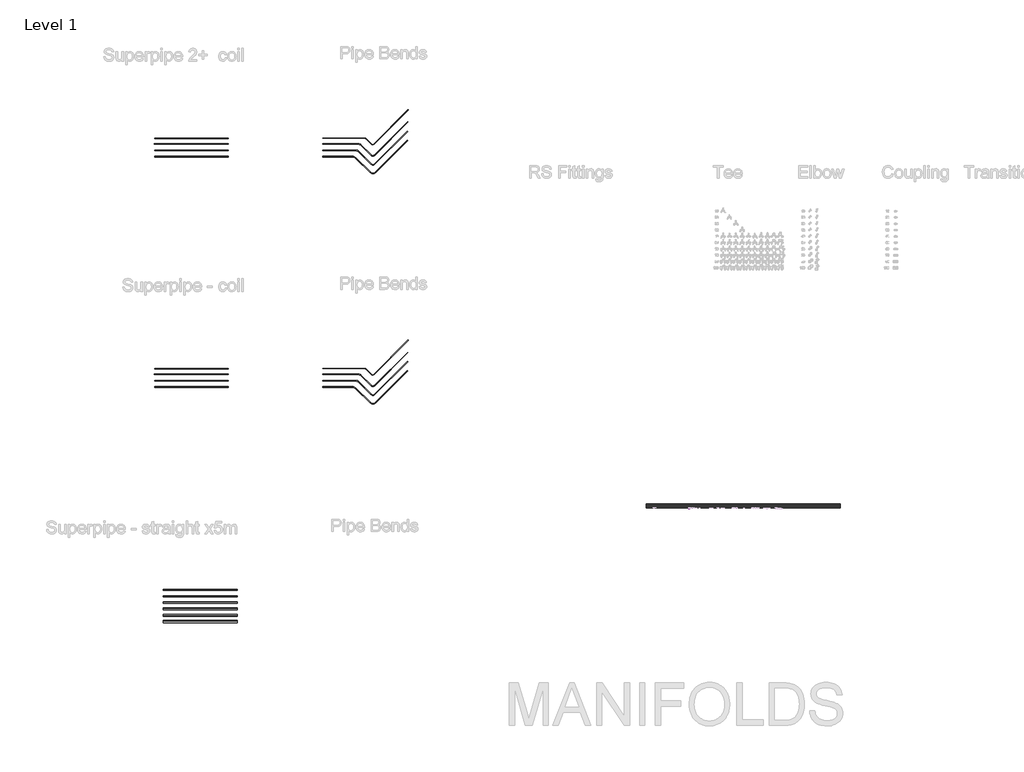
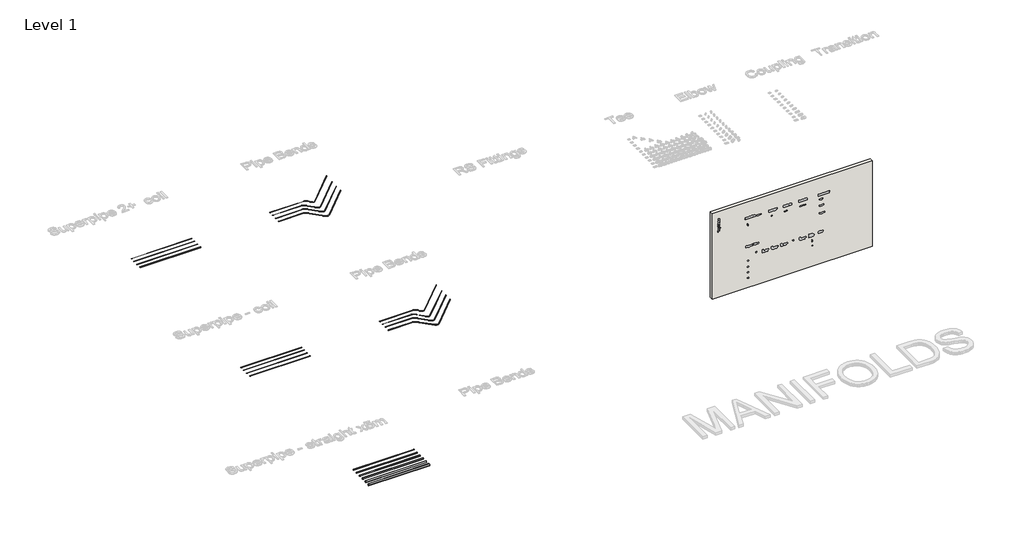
# One storey, part 1 of 58: 38 pipe segments, 17 pipe fittings, 2 valves, 1 wall.
"""IFC4 building model written with IfcOpenShell, lengths in millimetres."""

from ifc_helpers import new_model, si_unit, point, frame, frame_2d, origin, place, context, project, spatial, polyline, circle_curve, trimmed, segment, composite_curve, outline, extrude, transform, mapped, element, save
from components import pipe_bend_eb0728c1, pipe_bend_d9dde6bf, pipe_bend_f4e2ce4f, pipe_bend_7dc21ba6, pipe_bend_fe3f6248, pipe_bend_82ffcff3, pipe_bend_90816637, pipe_bend_7fa1795d, press_tap_elbow_removable_49ef6048, mounting_plate_double_c830053c, mounting_plate_single_762f868f

model = new_model("IFC4")

# Units and contexts
model_context = context("Model", 3, world=origin())
ifc_project = project(units=[si_unit("LENGTHUNIT", "METRE", prefix="MILLI")], contexts=[model_context])

# Site, building, storey
site = spatial("IfcSite", under=ifc_project)
building = spatial("IfcBuilding", under=site)
storey = spatial("IfcBuildingStorey", under=building, Name="Level 1", Elevation=27.3876384)

# Pipe fittings
placement = place(None, origin())
pipe_bend_shape = pipe_bend_eb0728c1(model_context)
element("IfcPipeFitting", 1, ObjectType="Pipe Bend : Superpipe Pipe bend", at=placement, inside=storey, context=model_context, shape_type="MappedRepresentation", body=[
    mapped(pipe_bend_shape, transform((-3369.3253653, 10832.9038637, 27.3876384), x_axis=(0.7071067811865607, -0.7071067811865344, 0.0), y_axis=(0.7071067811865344, 0.7071067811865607, 0.0), z_axis=(0.0, 0.0, 1.0))),
])
pipe_bend_2_shape = pipe_bend_d9dde6bf(model_context)
element("IfcPipeFitting", 2, ObjectType="Pipe Bend : Superpipe 2-MAX Pipe bend", at=placement, inside=storey, context=model_context, shape_type="MappedRepresentation", body=[
    mapped(pipe_bend_2_shape, transform((-4101.9762256, 21538.9696271, 27.3876384), x_axis=(-0.7071067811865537, 0.7071067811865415, 0.0), y_axis=(-0.7071067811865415, -0.7071067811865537, 0.0), z_axis=(0.0, 0.0, 1.0))),
])
pipe_bend_3_shape = pipe_bend_f4e2ce4f(model_context)
element("IfcPipeFitting", 3, ObjectType="Pipe Bend : Superpipe 2-MAX Pipe bend", at=placement, inside=storey, context=model_context, shape_type="MappedRepresentation", body=[
    mapped(pipe_bend_3_shape, transform((-3359.3966856, 20796.390087, 27.3876384), x_axis=(0.7071067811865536, -0.7071067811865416, 0.0), y_axis=(0.7071067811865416, 0.7071067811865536, 0.0), z_axis=(0.0, 0.0, 1.0))),
])
pipe_bend_4_shape = pipe_bend_7dc21ba6(model_context)
element("IfcPipeFitting", 4, ObjectType="Pipe Bend : Superpipe 2-MAX Pipe bend", at=placement, inside=storey, context=model_context, shape_type="MappedRepresentation", body=[
    mapped(pipe_bend_4_shape, transform((-4228.2285194, 21234.1696271, 27.3876384), x_axis=(-0.7071067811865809, 0.7071067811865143, 0.0), y_axis=(-0.7071067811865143, -0.7071067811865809, 0.0), z_axis=(0.0, 0.0, 1.0))),
])
pipe_bend_5_shape = pipe_bend_fe3f6248(model_context)
element("IfcPipeFitting", 5, ObjectType="Pipe Bend : Superpipe 2-MAX Pipe bend", at=placement, inside=storey, context=model_context, shape_type="MappedRepresentation", body=[
    mapped(pipe_bend_5_shape, transform((-3359.5381069, 20365.4792146, 27.3876384), x_axis=(0.7071067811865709, -0.7071067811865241, 0.0), y_axis=(0.7071067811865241, 0.7071067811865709, 0.0), z_axis=(0.0, 0.0, 1.0))),
])
pipe_bend_6_shape = pipe_bend_82ffcff3(model_context)
element("IfcPipeFitting", 6, ObjectType="Pipe Bend : Superpipe 2-MAX Pipe bend", at=placement, inside=storey, context=model_context, shape_type="MappedRepresentation", body=[
    mapped(pipe_bend_6_shape, transform((-3712.611924, 22115.3990822, 27.3876384), x_axis=(-0.7071067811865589, 0.7071067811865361, 0.0), y_axis=(-0.7071067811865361, -0.7071067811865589, 0.0), z_axis=(0.0, 0.0, 1.0))),
])
pipe_bend_7_shape = pipe_bend_90816637(model_context)
element("IfcPipeFitting", 7, ObjectType="Pipe Bend : Superpipe 2-MAX Pipe bend", at=placement, inside=storey, context=model_context, shape_type="MappedRepresentation", body=[
    mapped(pipe_bend_7_shape, transform((-3977.7121569, 21838.9696271, 27.3876384), x_axis=(-0.7071067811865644, 0.7071067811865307, 0.0), y_axis=(-0.7071067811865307, -0.7071067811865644, 0.0), z_axis=(0.0, 0.0, 1.0))),
])
pipe_bend_8_shape = pipe_bend_7fa1795d(model_context)
element("IfcPipeFitting", 8, ObjectType="Pipe Bend : Superpipe 2-MAX Pipe bend", at=placement, inside=storey, context=model_context, shape_type="MappedRepresentation", body=[
    mapped(pipe_bend_8_shape, transform((-3359.3966856, 21220.6541558, 27.3876384), x_axis=(0.7071067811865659, -0.7071067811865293, 0.0), y_axis=(0.7071067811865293, 0.7071067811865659, 0.0), z_axis=(0.0, 0.0, 1.0))),
])
element("IfcPipeFitting", 9, ObjectType="Pipe Bend : Superpipe Pipe bend", at=placement, inside=storey, context=model_context, shape_type="MappedRepresentation", body=[
    mapped(pipe_bend_2_shape, transform((-4101.9762256, 10599.7609672, 27.3876384), x_axis=(-0.7071067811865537, 0.7071067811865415, 0.0), y_axis=(-0.7071067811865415, -0.7071067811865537, 0.0), z_axis=(0.0, 0.0, 1.0))),
])
element("IfcPipeFitting", 10, ObjectType="Pipe Bend : Superpipe Pipe bend", at=placement, inside=storey, context=model_context, shape_type="MappedRepresentation", body=[
    mapped(pipe_bend_3_shape, transform((-3359.3966856, 9857.1814272, 27.3876384), x_axis=(0.7071067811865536, -0.7071067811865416, 0.0), y_axis=(0.7071067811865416, 0.7071067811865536, 0.0), z_axis=(0.0, 0.0, 1.0))),
])
element("IfcPipeFitting", 11, ObjectType="Pipe Bend : Superpipe Pipe bend", at=placement, inside=storey, context=model_context, shape_type="MappedRepresentation", body=[
    mapped(pipe_bend_4_shape, transform((-4228.2285194, 10294.9609672, 27.3876384), x_axis=(-0.7071067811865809, 0.7071067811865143, 0.0), y_axis=(-0.7071067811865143, -0.7071067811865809, 0.0), z_axis=(0.0, 0.0, 1.0))),
])
element("IfcPipeFitting", 12, ObjectType="Pipe Bend : Superpipe Pipe bend", at=placement, inside=storey, context=model_context, shape_type="MappedRepresentation", body=[
    mapped(pipe_bend_5_shape, transform((-3359.5381069, 9426.2705547, 27.3876384), x_axis=(0.7071067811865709, -0.7071067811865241, 0.0), y_axis=(0.7071067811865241, 0.7071067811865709, 0.0), z_axis=(0.0, 0.0, 1.0))),
])
element("IfcPipeFitting", 13, ObjectType="Pipe Bend : Superpipe Pipe bend", at=placement, inside=storey, context=model_context, shape_type="MappedRepresentation", body=[
    mapped(pipe_bend_6_shape, transform((-3712.611924, 11176.1904223, 27.3876384), x_axis=(-0.7071067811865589, 0.7071067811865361, 0.0), y_axis=(-0.7071067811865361, -0.7071067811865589, 0.0), z_axis=(0.0, 0.0, 1.0))),
])
element("IfcPipeFitting", 14, ObjectType="Pipe Bend : Superpipe Pipe bend", at=placement, inside=storey, context=model_context, shape_type="MappedRepresentation", body=[
    mapped(pipe_bend_7_shape, transform((-3977.7121569, 10899.7609672, 27.3876384), x_axis=(-0.7071067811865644, 0.7071067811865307, 0.0), y_axis=(-0.7071067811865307, -0.7071067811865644, 0.0), z_axis=(0.0, 0.0, 1.0))),
])
element("IfcPipeFitting", 15, ObjectType="Pipe Bend : Superpipe Pipe bend", at=placement, inside=storey, context=model_context, shape_type="MappedRepresentation", body=[
    mapped(pipe_bend_8_shape, transform((-3359.3966856, 10281.4454959, 27.3876384), x_axis=(0.7071067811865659, -0.7071067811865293, 0.0), y_axis=(0.7071067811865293, 0.7071067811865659, 0.0), z_axis=(0.0, 0.0, 1.0))),
])
element("IfcPipeFitting", 16, ObjectType="Pipe Bend : Superpipe 2-MAX Pipe bend", at=placement, inside=storey, context=model_context, shape_type="MappedRepresentation", body=[
    mapped(pipe_bend_shape, transform((-3369.3253653, 21772.1125236, 27.3876384), x_axis=(0.7071067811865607, -0.7071067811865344, 0.0), y_axis=(0.7071067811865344, 0.7071067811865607, 0.0), z_axis=(0.0, 0.0, 1.0))),
])
press_tap_elbow_removable_shape = press_tap_elbow_removable_49ef6048(model_context)
element("IfcPipeFitting", 17, ObjectType="Press Tap Elbow (removable) : Superpipe Press Tap Elbow (removable) - 16x½”", at=placement, inside=storey, context=model_context, shape_type="MappedRepresentation", body=[
    mapped(press_tap_elbow_removable_shape, transform((11641.6673445, 4544.8703674, 3854.1517019), x_axis=(1.0, 0.0, 0.0), y_axis=(0.0, 0.0, 1.0), z_axis=(0.0, -1.0, 0.0))),
])

# Pipe segments
element("IfcPipeSegment", 18, ObjectType="Superpipe - straight x5m", at=placement, inside=storey, context=model_context, shape_type="SweptSolid", body=[
    extrude(outline(composite_curve([segment(trimmed(circle_curve(frame_2d((661.181439, 27.3876384)), 20.0), [point((641.181439, 27.3876384))], [point((661.181439, 47.3876384))], False, "CARTESIAN"), True, "CONTINUOUS"), segment(trimmed(circle_curve(frame_2d((661.181439, 27.3876384)), 20.0), [point((661.181439, 47.3876384))], [point((681.181439, 27.3876384))], False, "CARTESIAN"), True, "CONTINUOUS"), segment(trimmed(circle_curve(frame_2d((661.181439, 27.3876384)), 20.0), [point((681.181439, 27.3876384))], [point((661.181439, 7.3876384))], False, "CARTESIAN"), True, "CONTINUOUS"), segment(trimmed(circle_curve(frame_2d((661.181439, 27.3876384)), 20.0), [point((661.181439, 7.3876384))], [point((641.181439, 27.3876384))], False, "CARTESIAN"), True, "CONTINUOUS")], self_intersect=False)), frame((-13304.4823631, 0.0, 0.0), z_axis=(1.0, 0.0, 0.0), x_axis=(0.0, 1.0, 0.0)), (0.0, 0.0, 1.0), 3500.0),
])
element("IfcPipeSegment", 19, ObjectType="Superpipe - straight x5m", at=placement, inside=storey, context=model_context, shape_type="SweptSolid", body=[
    extrude(outline(composite_curve([segment(trimmed(circle_curve(frame_2d((361.181439, 27.3876384)), 25.0), [point((336.181439, 27.3876384))], [point((361.181439, 52.3876384))], False, "CARTESIAN"), True, "CONTINUOUS"), segment(trimmed(circle_curve(frame_2d((361.181439, 27.3876384)), 25.0), [point((361.181439, 52.3876384))], [point((386.181439, 27.3876384))], False, "CARTESIAN"), True, "CONTINUOUS"), segment(trimmed(circle_curve(frame_2d((361.181439, 27.3876384)), 25.0), [point((386.181439, 27.3876384))], [point((361.181439, 2.3876384))], False, "CARTESIAN"), True, "CONTINUOUS"), segment(trimmed(circle_curve(frame_2d((361.181439, 27.3876384)), 25.0), [point((361.181439, 2.3876384))], [point((336.181439, 27.3876384))], False, "CARTESIAN"), True, "CONTINUOUS")], self_intersect=False)), frame((-13304.4823631, 0.0, 0.0), z_axis=(1.0, 0.0, 0.0), x_axis=(0.0, 1.0, 0.0)), (0.0, 0.0, 1.0), 3500.0),
])
element("IfcPipeSegment", 20, ObjectType="Superpipe - straight x5m", at=placement, inside=storey, context=model_context, shape_type="SweptSolid", body=[
    extrude(outline(composite_curve([segment(trimmed(circle_curve(frame_2d((-238.818561, 27.3876384)), 37.5), [point((-276.318561, 27.3876384))], [point((-238.818561, 64.8876384))], False, "CARTESIAN"), True, "CONTINUOUS"), segment(trimmed(circle_curve(frame_2d((-238.818561, 27.3876384)), 37.5), [point((-238.818561, 64.8876384))], [point((-201.318561, 27.3876384))], False, "CARTESIAN"), True, "CONTINUOUS"), segment(trimmed(circle_curve(frame_2d((-238.818561, 27.3876384)), 37.5), [point((-201.318561, 27.3876384))], [point((-238.818561, -10.1123616))], False, "CARTESIAN"), True, "CONTINUOUS"), segment(trimmed(circle_curve(frame_2d((-238.818561, 27.3876384)), 37.5), [point((-238.818561, -10.1123616))], [point((-276.318561, 27.3876384))], False, "CARTESIAN"), True, "CONTINUOUS")], self_intersect=False)), frame((-13304.4823631, 0.0, 0.0), z_axis=(1.0, 0.0, 0.0), x_axis=(0.0, 1.0, 0.0)), (0.0, 0.0, 1.0), 3500.0),
])
element("IfcPipeSegment", 21, ObjectType="Superpipe - straight x5m", at=placement, inside=storey, context=model_context, shape_type="SweptSolid", body=[
    extrude(outline(composite_curve([segment(trimmed(circle_curve(frame_2d((-538.818561, 27.3876384)), 45.0), [point((-583.818561, 27.3876384))], [point((-538.818561, 72.3876384))], False, "CARTESIAN"), True, "CONTINUOUS"), segment(trimmed(circle_curve(frame_2d((-538.818561, 27.3876384)), 45.0), [point((-538.818561, 72.3876384))], [point((-493.818561, 27.3876384))], False, "CARTESIAN"), True, "CONTINUOUS"), segment(trimmed(circle_curve(frame_2d((-538.818561, 27.3876384)), 45.0), [point((-493.818561, 27.3876384))], [point((-538.818561, -17.6123616))], False, "CARTESIAN"), True, "CONTINUOUS"), segment(trimmed(circle_curve(frame_2d((-538.818561, 27.3876384)), 45.0), [point((-538.818561, -17.6123616))], [point((-583.818561, 27.3876384))], False, "CARTESIAN"), True, "CONTINUOUS")], self_intersect=False)), frame((-13304.4823631, 0.0, 0.0), z_axis=(1.0, 0.0, 0.0), x_axis=(0.0, 1.0, 0.0)), (0.0, 0.0, 1.0), 3500.0),
])
element("IfcPipeSegment", 22, ObjectType="Superpipe - straight x5m", at=placement, inside=storey, context=model_context, shape_type="SweptSolid", body=[
    extrude(outline(composite_curve([segment(trimmed(circle_curve(frame_2d((-838.818561, 27.3876384)), 55.0), [point((-893.818561, 27.3876384))], [point((-838.818561, 82.3876384))], False, "CARTESIAN"), True, "CONTINUOUS"), segment(trimmed(circle_curve(frame_2d((-838.818561, 27.3876384)), 55.0), [point((-838.818561, 82.3876384))], [point((-783.818561, 27.3876384))], False, "CARTESIAN"), True, "CONTINUOUS"), segment(trimmed(circle_curve(frame_2d((-838.818561, 27.3876384)), 55.0), [point((-783.818561, 27.3876384))], [point((-838.818561, -27.6123616))], False, "CARTESIAN"), True, "CONTINUOUS"), segment(trimmed(circle_curve(frame_2d((-838.818561, 27.3876384)), 55.0), [point((-838.818561, -27.6123616))], [point((-893.818561, 27.3876384))], False, "CARTESIAN"), True, "CONTINUOUS")], self_intersect=False)), frame((-13304.4823631, 0.0, 0.0), z_axis=(1.0, 0.0, 0.0), x_axis=(0.0, 1.0, 0.0)), (0.0, 0.0, 1.0), 3500.0),
])
element("IfcPipeSegment", 23, ObjectType="Superpipe - straight x5m", at=placement, inside=storey, context=model_context, shape_type="SweptSolid", body=[
    extrude(outline(composite_curve([segment(trimmed(circle_curve(frame_2d((61.181439, 27.3876384)), 31.5), [point((92.681439, 27.3876384))], [point((61.181439, -4.1123616))], False, "CARTESIAN"), True, "CONTINUOUS"), segment(trimmed(circle_curve(frame_2d((61.181439, 27.3876384)), 31.5), [point((61.181439, -4.1123616))], [point((29.681439, 27.3876384))], False, "CARTESIAN"), True, "CONTINUOUS"), segment(trimmed(circle_curve(frame_2d((61.181439, 27.3876384)), 31.5), [point((29.681439, 27.3876384))], [point((61.181439, 58.8876384))], False, "CARTESIAN"), True, "CONTINUOUS"), segment(trimmed(circle_curve(frame_2d((61.181439, 27.3876384)), 31.5), [point((61.181439, 58.8876384))], [point((92.681439, 27.3876384))], False, "CARTESIAN"), True, "CONTINUOUS")], self_intersect=False)), frame((-13304.4823631, 0.0, 0.0), z_axis=(1.0, 0.0, 0.0), x_axis=(0.0, 1.0, 0.0)), (0.0, 0.0, 1.0), 3500.0),
])
element("IfcPipeSegment", 24, ObjectType="Superpipe 2+ coil", at=placement, inside=storey, context=model_context, shape_type="SweptSolid", body=[
    extrude(outline(composite_curve([segment(trimmed(circle_curve(frame_2d((22094.3722223, 27.3876384)), 8.0), [point((22086.3722223, 27.3876384))], [point((22094.3722223, 35.3876384))], False, "CARTESIAN"), True, "CONTINUOUS"), segment(trimmed(circle_curve(frame_2d((22094.3722223, 27.3876384)), 8.0), [point((22094.3722223, 35.3876384))], [point((22102.3722223, 27.3876384))], False, "CARTESIAN"), True, "CONTINUOUS"), segment(trimmed(circle_curve(frame_2d((22094.3722223, 27.3876384)), 8.0), [point((22102.3722223, 27.3876384))], [point((22094.3722223, 19.3876384))], False, "CARTESIAN"), True, "CONTINUOUS"), segment(trimmed(circle_curve(frame_2d((22094.3722223, 27.3876384)), 8.0), [point((22094.3722223, 19.3876384))], [point((22086.3722223, 27.3876384))], False, "CARTESIAN"), True, "CONTINUOUS")], self_intersect=False)), frame((-13721.8421438, 0.0, 0.0), z_axis=(1.0, 0.0, 0.0), x_axis=(0.0, 1.0, 0.0)), (0.0, 0.0, 1.0), 3490.872583),
])
element("IfcPipeSegment", 25, ObjectType="Superpipe 2+ coil", at=placement, inside=storey, context=model_context, shape_type="SweptSolid", body=[
    extrude(outline(composite_curve([segment(trimmed(circle_curve(frame_2d((21831.7152238, 27.3876384)), 10.0), [point((21821.7152238, 27.3876384))], [point((21831.7152238, 37.3876384))], False, "CARTESIAN"), True, "CONTINUOUS"), segment(trimmed(circle_curve(frame_2d((21831.7152238, 27.3876384)), 10.0), [point((21831.7152238, 37.3876384))], [point((21841.7152238, 27.3876384))], False, "CARTESIAN"), True, "CONTINUOUS"), segment(trimmed(circle_curve(frame_2d((21831.7152238, 27.3876384)), 10.0), [point((21841.7152238, 27.3876384))], [point((21831.7152238, 17.3876384))], False, "CARTESIAN"), True, "CONTINUOUS"), segment(trimmed(circle_curve(frame_2d((21831.7152238, 27.3876384)), 10.0), [point((21831.7152238, 17.3876384))], [point((21821.7152238, 27.3876384))], False, "CARTESIAN"), True, "CONTINUOUS")], self_intersect=False)), frame((-13730.9695608, 0.0, 0.0), z_axis=(1.0, 0.0, 0.0), x_axis=(0.0, 1.0, 0.0)), (0.0, 0.0, 1.0), 3500.0),
])
element("IfcPipeSegment", 26, ObjectType="Superpipe 2+ coil", at=placement, inside=storey, context=model_context, shape_type="SweptSolid", body=[
    extrude(outline(composite_curve([segment(trimmed(circle_curve(frame_2d((21531.7152238, 27.3876384)), 12.5), [point((21519.2152238, 27.3876384))], [point((21531.7152238, 39.8876384))], False, "CARTESIAN"), True, "CONTINUOUS"), segment(trimmed(circle_curve(frame_2d((21531.7152238, 27.3876384)), 12.5), [point((21531.7152238, 39.8876384))], [point((21544.2152238, 27.3876384))], False, "CARTESIAN"), True, "CONTINUOUS"), segment(trimmed(circle_curve(frame_2d((21531.7152238, 27.3876384)), 12.5), [point((21544.2152238, 27.3876384))], [point((21531.7152238, 14.8876384))], False, "CARTESIAN"), True, "CONTINUOUS"), segment(trimmed(circle_curve(frame_2d((21531.7152238, 27.3876384)), 12.5), [point((21531.7152238, 14.8876384))], [point((21519.2152238, 27.3876384))], False, "CARTESIAN"), True, "CONTINUOUS")], self_intersect=False)), frame((-13721.8421438, 0.0, 0.0), z_axis=(1.0, 0.0, 0.0), x_axis=(0.0, 1.0, 0.0)), (0.0, 0.0, 1.0), 3490.872583),
])
element("IfcPipeSegment", 27, ObjectType="Superpipe 2+ coil", at=placement, inside=storey, context=model_context, shape_type="SweptSolid", body=[
    extrude(outline(composite_curve([segment(trimmed(circle_curve(frame_2d((21231.7152238, 27.3876384)), 16.0), [point((21215.7152238, 27.3876384))], [point((21231.7152238, 43.3876384))], False, "CARTESIAN"), True, "CONTINUOUS"), segment(trimmed(circle_curve(frame_2d((21231.7152238, 27.3876384)), 16.0), [point((21231.7152238, 43.3876384))], [point((21247.7152238, 27.3876384))], False, "CARTESIAN"), True, "CONTINUOUS"), segment(trimmed(circle_curve(frame_2d((21231.7152238, 27.3876384)), 16.0), [point((21247.7152238, 27.3876384))], [point((21231.7152238, 11.3876384))], False, "CARTESIAN"), True, "CONTINUOUS"), segment(trimmed(circle_curve(frame_2d((21231.7152238, 27.3876384)), 16.0), [point((21231.7152238, 11.3876384))], [point((21215.7152238, 27.3876384))], False, "CARTESIAN"), True, "CONTINUOUS")], self_intersect=False)), frame((-13717.2857947, 0.0, 0.0), z_axis=(1.0, 0.0, 0.0), x_axis=(0.0, 1.0, 0.0)), (0.0, 0.0, 1.0), 3486.3162338),
])
element("IfcPipeSegment", 28, ObjectType="Superpipe 2+ coil", at=placement, inside=storey, context=model_context, shape_type="SweptSolid", body=[
    extrude(outline(composite_curve([segment(trimmed(circle_curve(frame_2d((21538.9696271, 27.3876384)), 12.5), [point((21526.4696271, 27.3876384))], [point((21538.9696271, 39.8876384))], False, "CARTESIAN"), True, "CONTINUOUS"), segment(trimmed(circle_curve(frame_2d((21538.9696271, 27.3876384)), 12.5), [point((21538.9696271, 39.8876384))], [point((21551.4696271, 27.3876384))], False, "CARTESIAN"), True, "CONTINUOUS"), segment(trimmed(circle_curve(frame_2d((21538.9696271, 27.3876384)), 12.5), [point((21551.4696271, 27.3876384))], [point((21538.9696271, 14.8876384))], False, "CARTESIAN"), True, "CONTINUOUS"), segment(trimmed(circle_curve(frame_2d((21538.9696271, 27.3876384)), 12.5), [point((21538.9696271, 14.8876384))], [point((21526.4696271, 27.3876384))], False, "CARTESIAN"), True, "CONTINUOUS")], self_intersect=False)), frame((-5730.9695608, 0.0, 0.0), z_axis=(1.0, 0.0, 0.0), x_axis=(0.0, 1.0, 0.0)), (0.0, 0.0, 1.0), 1575.2166399),
])
element("IfcPipeSegment", 29, ObjectType="Superpipe 2+ coil", at=placement, inside=storey, context=model_context, shape_type="SweptSolid", body=[
    extrude(outline(composite_curve([segment(trimmed(circle_curve(frame_2d((0.0, -12.5)), 12.5), [point((-12.5, -12.5))], [point((0.0, 0.0))], False, "CARTESIAN"), True, "CONTINUOUS"), segment(trimmed(circle_curve(frame_2d((0.0, -12.5)), 12.5), [point((0.0, 0.0))], [point((12.5, -12.5))], False, "CARTESIAN"), True, "CONTINUOUS"), segment(trimmed(circle_curve(frame_2d((0.0, -12.5)), 12.5), [point((12.5, -12.5))], [point((0.0, -25.0))], False, "CARTESIAN"), True, "CONTINUOUS"), segment(trimmed(circle_curve(frame_2d((0.0, -12.5)), 12.5), [point((0.0, -25.0))], [point((-12.5, -12.5))], False, "CARTESIAN"), True, "CONTINUOUS")], self_intersect=False)), frame((-3449.1992468, 20886.1926483, 14.8876384), z_axis=(-0.7071067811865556, 0.7071067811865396, 0.0), x_axis=(0.7071067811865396, 0.7071067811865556, 0.0)), (0.0, 0.0, 1.0), 869.3893614),
])
element("IfcPipeSegment", 30, ObjectType="Superpipe 2+ coil", at=placement, inside=storey, context=model_context, shape_type="SweptSolid", body=[
    extrude(outline(composite_curve([segment(trimmed(circle_curve(frame_2d((0.0, 12.5)), 12.5), [point((12.5, 12.5))], [point((0.0, 0.0))], False, "CARTESIAN"), True, "CONTINUOUS"), segment(trimmed(circle_curve(frame_2d((0.0, 12.5)), 12.5), [point((0.0, 0.0))], [point((-12.4999999, 12.5))], False, "CARTESIAN"), True, "CONTINUOUS"), segment(trimmed(circle_curve(frame_2d((0.0, 12.5)), 12.5), [point((-12.4999999, 12.5))], [point((0.0, 25.0))], False, "CARTESIAN"), True, "CONTINUOUS"), segment(trimmed(circle_curve(frame_2d((0.0, 12.5)), 12.5), [point((0.0, 25.0))], [point((12.5, 12.5))], False, "CARTESIAN"), True, "CONTINUOUS")], self_intersect=False)), frame((-3269.5941244, 20886.1926483, 39.8876384), z_axis=(0.7071067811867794, 0.7071067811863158, 0.0), x_axis=(0.7071067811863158, -0.7071067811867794, 0.0)), (0.0, 0.0, 1.0), 2195.2640687),
])
element("IfcPipeSegment", 31, ObjectType="Superpipe 2+ coil", at=placement, inside=storey, context=model_context, shape_type="SweptSolid", body=[
    extrude(outline(composite_curve([segment(trimmed(circle_curve(frame_2d((21234.1696271, 27.3876384)), 16.0), [point((21218.1696271, 27.3876384))], [point((21234.1696271, 43.3876384))], False, "CARTESIAN"), True, "CONTINUOUS"), segment(trimmed(circle_curve(frame_2d((21234.1696271, 27.3876384)), 16.0), [point((21234.1696271, 43.3876384))], [point((21250.1696271, 27.3876384))], False, "CARTESIAN"), True, "CONTINUOUS"), segment(trimmed(circle_curve(frame_2d((21234.1696271, 27.3876384)), 16.0), [point((21250.1696271, 27.3876384))], [point((21234.1696271, 11.3876384))], False, "CARTESIAN"), True, "CONTINUOUS"), segment(trimmed(circle_curve(frame_2d((21234.1696271, 27.3876384)), 16.0), [point((21234.1696271, 11.3876384))], [point((21218.1696271, 27.3876384))], False, "CARTESIAN"), True, "CONTINUOUS")], self_intersect=False)), frame((-5730.9695608, 0.0, 0.0), z_axis=(1.0, 0.0, 0.0), x_axis=(0.0, 1.0, 0.0)), (0.0, 0.0, 1.0), 1434.4668714),
])
element("IfcPipeSegment", 32, ObjectType="Superpipe 2+ coil", at=placement, inside=storey, context=model_context, shape_type="SweptSolid", body=[
    extrude(outline(composite_curve([segment(trimmed(circle_curve(frame_2d((0.0, -16.0)), 16.0), [point((-16.0, -16.0))], [point((0.0, 0.0))], False, "CARTESIAN"), True, "CONTINUOUS"), segment(trimmed(circle_curve(frame_2d((0.0, -16.0)), 16.0), [point((0.0, 0.0))], [point((16.0, -16.0))], False, "CARTESIAN"), True, "CONTINUOUS"), segment(trimmed(circle_curve(frame_2d((0.0, -16.0)), 16.0), [point((16.0, -16.0))], [point((0.0, -32.0))], False, "CARTESIAN"), True, "CONTINUOUS"), segment(trimmed(circle_curve(frame_2d((0.0, -16.0)), 16.0), [point((0.0, -32.0))], [point((-16.0, -16.0))], False, "CARTESIAN"), True, "CONTINUOUS")], self_intersect=False)), frame((-3474.0894055, 20480.0305131, 11.3876384), z_axis=(-0.7071067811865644, 0.7071067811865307, 0.0), x_axis=(0.7071067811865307, 0.7071067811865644, 0.0)), (0.0, 0.0, 1.0), 998.2395929),
])
element("IfcPipeSegment", 33, ObjectType="Superpipe 2+ coil", at=placement, inside=storey, context=model_context, shape_type="SweptSolid", body=[
    extrude(outline(composite_curve([segment(trimmed(circle_curve(frame_2d((0.0, 16.0)), 16.0), [point((16.0, 16.0))], [point((0.0, 0.0))], False, "CARTESIAN"), True, "CONTINUOUS"), segment(trimmed(circle_curve(frame_2d((0.0, 16.0)), 16.0), [point((0.0, 0.0))], [point((-16.0, 16.0))], False, "CARTESIAN"), True, "CONTINUOUS"), segment(trimmed(circle_curve(frame_2d((0.0, 16.0)), 16.0), [point((-16.0, 16.0))], [point((0.0, 32.0))], False, "CARTESIAN"), True, "CONTINUOUS"), segment(trimmed(circle_curve(frame_2d((0.0, 16.0)), 16.0), [point((0.0, 32.0))], [point((16.0, 16.0))], False, "CARTESIAN"), True, "CONTINUOUS")], self_intersect=False)), frame((-3244.9868084, 20480.0305131, 43.3876384), z_axis=(0.7071067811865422, 0.7071067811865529, 0.0), x_axis=(0.7071067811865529, -0.7071067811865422, 0.0)), (0.0, 0.0, 1.0), 2149.2640687),
])
element("IfcPipeSegment", 34, ObjectType="Superpipe 2+ coil", at=placement, inside=storey, context=model_context, shape_type="SweptSolid", body=[
    extrude(outline(composite_curve([segment(trimmed(circle_curve(frame_2d((22115.3990822, 27.3876384)), 8.0), [point((22107.3990822, 27.3876384))], [point((22115.3990822, 35.3876384))], False, "CARTESIAN"), True, "CONTINUOUS"), segment(trimmed(circle_curve(frame_2d((22115.3990822, 27.3876384)), 8.0), [point((22115.3990822, 35.3876384))], [point((22123.3990822, 27.3876384))], False, "CARTESIAN"), True, "CONTINUOUS"), segment(trimmed(circle_curve(frame_2d((22115.3990822, 27.3876384)), 8.0), [point((22123.3990822, 27.3876384))], [point((22115.3990822, 19.3876384))], False, "CARTESIAN"), True, "CONTINUOUS"), segment(trimmed(circle_curve(frame_2d((22115.3990822, 27.3876384)), 8.0), [point((22115.3990822, 19.3876384))], [point((22107.3990822, 27.3876384))], False, "CARTESIAN"), True, "CONTINUOUS")], self_intersect=False)), frame((-5727.3990159, 0.0, 0.0), z_axis=(1.0, 0.0, 0.0), x_axis=(0.0, 1.0, 0.0)), (0.0, 0.0, 1.0), 1979.650007),
])
element("IfcPipeSegment", 35, ObjectType="Superpipe 2+ coil", at=placement, inside=storey, context=model_context, shape_type="SweptSolid", body=[
    extrude(outline(composite_curve([segment(trimmed(circle_curve(frame_2d((0.0, -8.0)), 8.0), [point((-8.0, -8.0))], [point((0.0, 0.0))], False, "CARTESIAN"), True, "CONTINUOUS"), segment(trimmed(circle_curve(frame_2d((0.0, -8.0)), 8.0), [point((0.0, 0.0))], [point((8.0, -8.0))], False, "CARTESIAN"), True, "CONTINUOUS"), segment(trimmed(circle_curve(frame_2d((0.0, -8.0)), 8.0), [point((8.0, -8.0))], [point((0.0, -16.0))], False, "CARTESIAN"), True, "CONTINUOUS"), segment(trimmed(circle_curve(frame_2d((0.0, -8.0)), 8.0), [point((0.0, -16.0))], [point((-8.0, -8.0))], False, "CARTESIAN"), True, "CONTINUOUS")], self_intersect=False)), frame((-3427.3081214, 21830.0952796, 19.3876384), z_axis=(-0.7071067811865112, 0.707106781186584, 0.0), x_axis=(0.707106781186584, 0.7071067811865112, 0.0)), (0.0, 0.0, 1.0), 368.343422),
])
element("IfcPipeSegment", 36, ObjectType="Superpipe 2+ coil", at=placement, inside=storey, context=model_context, shape_type="SweptSolid", body=[
    extrude(outline(composite_curve([segment(trimmed(circle_curve(frame_2d((0.0, 8.0)), 8.0), [point((8.0, 8.0))], [point((0.0, 0.0))], False, "CARTESIAN"), True, "CONTINUOUS"), segment(trimmed(circle_curve(frame_2d((0.0, 8.0)), 8.0), [point((0.0, 0.0))], [point((-8.0, 8.0))], False, "CARTESIAN"), True, "CONTINUOUS"), segment(trimmed(circle_curve(frame_2d((0.0, 8.0)), 8.0), [point((-8.0, 8.0))], [point((0.0, 16.0))], False, "CARTESIAN"), True, "CONTINUOUS"), segment(trimmed(circle_curve(frame_2d((0.0, 8.0)), 8.0), [point((0.0, 16.0))], [point((8.0, 8.0))], False, "CARTESIAN"), True, "CONTINUOUS")], self_intersect=False)), frame((-3311.3426093, 21830.0952796, 35.3876384), z_axis=(0.7071067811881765, 0.7071067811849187, 0.0), x_axis=(0.7071067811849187, -0.7071067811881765, 0.0)), (0.0, 0.0, 1.0), 2295.3548553),
])
element("IfcPipeSegment", 37, ObjectType="Superpipe 2+ coil", at=placement, inside=storey, context=model_context, shape_type="SweptSolid", body=[
    extrude(outline(composite_curve([segment(trimmed(circle_curve(frame_2d((21838.9696271, 27.3876384)), 10.0), [point((21848.9696271, 27.3876384))], [point((21838.9696271, 17.3876384))], False, "CARTESIAN"), True, "CONTINUOUS"), segment(trimmed(circle_curve(frame_2d((21838.9696271, 27.3876384)), 10.0), [point((21838.9696271, 17.3876384))], [point((21828.9696271, 27.3876384))], False, "CARTESIAN"), True, "CONTINUOUS"), segment(trimmed(circle_curve(frame_2d((21838.9696271, 27.3876384)), 10.0), [point((21828.9696271, 27.3876384))], [point((21838.9696271, 37.3876384))], False, "CARTESIAN"), True, "CONTINUOUS"), segment(trimmed(circle_curve(frame_2d((21838.9696271, 27.3876384)), 10.0), [point((21838.9696271, 37.3876384))], [point((21848.9696271, 27.3876384))], False, "CARTESIAN"), True, "CONTINUOUS")], self_intersect=False)), frame((-5730.9695608, 0.0, 0.0), z_axis=(1.0, 0.0, 0.0), x_axis=(0.0, 1.0, 0.0)), (0.0, 0.0, 1.0), 1709.8360477),
])
element("IfcPipeSegment", 38, ObjectType="Superpipe 2+ coil", at=placement, inside=storey, context=model_context, shape_type="SweptSolid", body=[
    extrude(outline(composite_curve([segment(trimmed(circle_curve(frame_2d((0.0, 10.0)), 10.0), [point((10.0, 10.0))], [point((0.0, 0.0))], False, "CARTESIAN"), True, "CONTINUOUS"), segment(trimmed(circle_curve(frame_2d((0.0, 10.0)), 10.0), [point((0.0, 0.0))], [point((-10.0, 10.0))], False, "CARTESIAN"), True, "CONTINUOUS"), segment(trimmed(circle_curve(frame_2d((0.0, 10.0)), 10.0), [point((-10.0, 10.0))], [point((0.0, 20.0))], False, "CARTESIAN"), True, "CONTINUOUS"), segment(trimmed(circle_curve(frame_2d((0.0, 10.0)), 10.0), [point((0.0, 20.0))], [point((10.0, 10.0))], False, "CARTESIAN"), True, "CONTINUOUS")], self_intersect=False)), frame((-3431.5215773, 21292.7790474, 37.3876384), z_axis=(-0.7071067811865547, 0.7071067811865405, 0.0), x_axis=(0.7071067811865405, 0.7071067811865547, 0.0)), (0.0, 0.0, 1.0), 729.0087692),
])
element("IfcPipeSegment", 39, ObjectType="Superpipe 2+ coil", at=placement, inside=storey, context=model_context, shape_type="SweptSolid", body=[
    extrude(outline(composite_curve([segment(trimmed(circle_curve(frame_2d((0.0, -10.0)), 10.0), [point((-10.0, -10.0))], [point((0.0, 0.0))], False, "CARTESIAN"), True, "CONTINUOUS"), segment(trimmed(circle_curve(frame_2d((0.0, -10.0)), 10.0), [point((0.0, 0.0))], [point((10.0, -10.0))], False, "CARTESIAN"), True, "CONTINUOUS"), segment(trimmed(circle_curve(frame_2d((0.0, -10.0)), 10.0), [point((10.0, -10.0))], [point((0.0, -20.0))], False, "CARTESIAN"), True, "CONTINUOUS"), segment(trimmed(circle_curve(frame_2d((0.0, -10.0)), 10.0), [point((0.0, -20.0))], [point((-10.0, -10.0))], False, "CARTESIAN"), True, "CONTINUOUS")], self_intersect=False)), frame((-3287.2717939, 21292.7790474, 17.3876384), z_axis=(0.7071067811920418, 0.7071067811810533, 0.0), x_axis=(0.7071067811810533, -0.7071067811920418, 0.0)), (0.0, 0.0, 1.0), 2240.2640687),
])
element("IfcPipeSegment", 40, ObjectType="Superpipe - coil", at=placement, inside=storey, context=model_context, shape_type="SweptSolid", body=[
    extrude(outline(composite_curve([segment(trimmed(circle_curve(frame_2d((11155.1635625, 27.3876384)), 8.0), [point((11147.1635625, 27.3876384))], [point((11155.1635625, 35.3876384))], False, "CARTESIAN"), True, "CONTINUOUS"), segment(trimmed(circle_curve(frame_2d((11155.1635625, 27.3876384)), 8.0), [point((11155.1635625, 35.3876384))], [point((11163.1635625, 27.3876384))], False, "CARTESIAN"), True, "CONTINUOUS"), segment(trimmed(circle_curve(frame_2d((11155.1635625, 27.3876384)), 8.0), [point((11163.1635625, 27.3876384))], [point((11155.1635625, 19.3876384))], False, "CARTESIAN"), True, "CONTINUOUS"), segment(trimmed(circle_curve(frame_2d((11155.1635625, 27.3876384)), 8.0), [point((11155.1635625, 19.3876384))], [point((11147.1635625, 27.3876384))], False, "CARTESIAN"), True, "CONTINUOUS")], self_intersect=False)), frame((-13721.8421438, 0.0, 0.0), z_axis=(1.0, 0.0, 0.0), x_axis=(0.0, 1.0, 0.0)), (0.0, 0.0, 1.0), 3490.872583),
])
element("IfcPipeSegment", 41, ObjectType="Superpipe - coil", at=placement, inside=storey, context=model_context, shape_type="SweptSolid", body=[
    extrude(outline(composite_curve([segment(trimmed(circle_curve(frame_2d((10892.506564, 27.3876384)), 10.0), [point((10882.506564, 27.3876384))], [point((10892.506564, 37.3876384))], False, "CARTESIAN"), True, "CONTINUOUS"), segment(trimmed(circle_curve(frame_2d((10892.506564, 27.3876384)), 10.0), [point((10892.506564, 37.3876384))], [point((10902.506564, 27.3876384))], False, "CARTESIAN"), True, "CONTINUOUS"), segment(trimmed(circle_curve(frame_2d((10892.506564, 27.3876384)), 10.0), [point((10902.506564, 27.3876384))], [point((10892.506564, 17.3876384))], False, "CARTESIAN"), True, "CONTINUOUS"), segment(trimmed(circle_curve(frame_2d((10892.506564, 27.3876384)), 10.0), [point((10892.506564, 17.3876384))], [point((10882.506564, 27.3876384))], False, "CARTESIAN"), True, "CONTINUOUS")], self_intersect=False)), frame((-13730.9695608, 0.0, 0.0), z_axis=(1.0, 0.0, 0.0), x_axis=(0.0, 1.0, 0.0)), (0.0, 0.0, 1.0), 3500.0),
])
element("IfcPipeSegment", 42, ObjectType="Superpipe - coil", at=placement, inside=storey, context=model_context, shape_type="SweptSolid", body=[
    extrude(outline(composite_curve([segment(trimmed(circle_curve(frame_2d((10592.506564, 27.3876384)), 12.5), [point((10580.006564, 27.3876384))], [point((10592.506564, 39.8876384))], False, "CARTESIAN"), True, "CONTINUOUS"), segment(trimmed(circle_curve(frame_2d((10592.506564, 27.3876384)), 12.5), [point((10592.506564, 39.8876384))], [point((10605.006564, 27.3876384))], False, "CARTESIAN"), True, "CONTINUOUS"), segment(trimmed(circle_curve(frame_2d((10592.506564, 27.3876384)), 12.5), [point((10605.006564, 27.3876384))], [point((10592.506564, 14.8876384))], False, "CARTESIAN"), True, "CONTINUOUS"), segment(trimmed(circle_curve(frame_2d((10592.506564, 27.3876384)), 12.5), [point((10592.506564, 14.8876384))], [point((10580.006564, 27.3876384))], False, "CARTESIAN"), True, "CONTINUOUS")], self_intersect=False)), frame((-13721.8421438, 0.0, 0.0), z_axis=(1.0, 0.0, 0.0), x_axis=(0.0, 1.0, 0.0)), (0.0, 0.0, 1.0), 3490.872583),
])
element("IfcPipeSegment", 43, ObjectType="Superpipe - coil", at=placement, inside=storey, context=model_context, shape_type="SweptSolid", body=[
    extrude(outline(composite_curve([segment(trimmed(circle_curve(frame_2d((10292.506564, 27.3876384)), 16.0), [point((10276.506564, 27.3876384))], [point((10292.506564, 43.3876384))], False, "CARTESIAN"), True, "CONTINUOUS"), segment(trimmed(circle_curve(frame_2d((10292.506564, 27.3876384)), 16.0), [point((10292.506564, 43.3876384))], [point((10308.506564, 27.3876384))], False, "CARTESIAN"), True, "CONTINUOUS"), segment(trimmed(circle_curve(frame_2d((10292.506564, 27.3876384)), 16.0), [point((10308.506564, 27.3876384))], [point((10292.506564, 11.3876384))], False, "CARTESIAN"), True, "CONTINUOUS"), segment(trimmed(circle_curve(frame_2d((10292.506564, 27.3876384)), 16.0), [point((10292.506564, 11.3876384))], [point((10276.506564, 27.3876384))], False, "CARTESIAN"), True, "CONTINUOUS")], self_intersect=False)), frame((-13717.2857947, 0.0, 0.0), z_axis=(1.0, 0.0, 0.0), x_axis=(0.0, 1.0, 0.0)), (0.0, 0.0, 1.0), 3486.3162338),
])
element("IfcPipeSegment", 44, ObjectType="Superpipe - coil", at=placement, inside=storey, context=model_context, shape_type="SweptSolid", body=[
    extrude(outline(composite_curve([segment(trimmed(circle_curve(frame_2d((10599.7609672, 27.3876384)), 12.5), [point((10587.2609672, 27.3876384))], [point((10599.7609672, 39.8876384))], False, "CARTESIAN"), True, "CONTINUOUS"), segment(trimmed(circle_curve(frame_2d((10599.7609672, 27.3876384)), 12.5), [point((10599.7609672, 39.8876384))], [point((10612.2609672, 27.3876384))], False, "CARTESIAN"), True, "CONTINUOUS"), segment(trimmed(circle_curve(frame_2d((10599.7609672, 27.3876384)), 12.5), [point((10612.2609672, 27.3876384))], [point((10599.7609672, 14.8876384))], False, "CARTESIAN"), True, "CONTINUOUS"), segment(trimmed(circle_curve(frame_2d((10599.7609672, 27.3876384)), 12.5), [point((10599.7609672, 14.8876384))], [point((10587.2609672, 27.3876384))], False, "CARTESIAN"), True, "CONTINUOUS")], self_intersect=False)), frame((-5730.9695608, 0.0, 0.0), z_axis=(1.0, 0.0, 0.0), x_axis=(0.0, 1.0, 0.0)), (0.0, 0.0, 1.0), 1575.2166399),
])
element("IfcPipeSegment", 45, ObjectType="Superpipe - coil", at=placement, inside=storey, context=model_context, shape_type="SweptSolid", body=[
    extrude(outline(composite_curve([segment(trimmed(circle_curve(frame_2d((0.0, -12.5)), 12.5), [point((-12.5, -12.5))], [point((0.0, 0.0))], False, "CARTESIAN"), True, "CONTINUOUS"), segment(trimmed(circle_curve(frame_2d((0.0, -12.5)), 12.5), [point((0.0, 0.0))], [point((12.5, -12.5))], False, "CARTESIAN"), True, "CONTINUOUS"), segment(trimmed(circle_curve(frame_2d((0.0, -12.5)), 12.5), [point((12.5, -12.5))], [point((0.0, -25.0))], False, "CARTESIAN"), True, "CONTINUOUS"), segment(trimmed(circle_curve(frame_2d((0.0, -12.5)), 12.5), [point((0.0, -25.0))], [point((-12.5, -12.5))], False, "CARTESIAN"), True, "CONTINUOUS")], self_intersect=False)), frame((-3449.1992468, 9946.9839884, 14.8876384), z_axis=(-0.7071067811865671, 0.707106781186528, 0.0), x_axis=(0.707106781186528, 0.7071067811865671, 0.0)), (0.0, 0.0, 1.0), 869.3893614),
])
element("IfcPipeSegment", 46, ObjectType="Superpipe - coil", at=placement, inside=storey, context=model_context, shape_type="SweptSolid", body=[
    extrude(outline(composite_curve([segment(trimmed(circle_curve(frame_2d((0.0, 12.5)), 12.5), [point((12.5, 12.5))], [point((0.0, 0.0))], False, "CARTESIAN"), True, "CONTINUOUS"), segment(trimmed(circle_curve(frame_2d((0.0, 12.5)), 12.5), [point((0.0, 0.0))], [point((-12.5, 12.5))], False, "CARTESIAN"), True, "CONTINUOUS"), segment(trimmed(circle_curve(frame_2d((0.0, 12.5)), 12.5), [point((-12.5, 12.5))], [point((0.0, 25.0))], False, "CARTESIAN"), True, "CONTINUOUS"), segment(trimmed(circle_curve(frame_2d((0.0, 12.5)), 12.5), [point((0.0, 25.0))], [point((12.5, 12.5))], False, "CARTESIAN"), True, "CONTINUOUS")], self_intersect=False)), frame((-3269.5941244, 9946.9839884, 39.8876384), z_axis=(0.7071067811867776, 0.7071067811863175, 0.0), x_axis=(0.7071067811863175, -0.7071067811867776, 0.0)), (0.0, 0.0, 1.0), 2195.2640687),
])
element("IfcPipeSegment", 47, ObjectType="Superpipe - coil", at=placement, inside=storey, context=model_context, shape_type="SweptSolid", body=[
    extrude(outline(composite_curve([segment(trimmed(circle_curve(frame_2d((10294.9609672, 27.3876384)), 16.0), [point((10278.9609672, 27.3876384))], [point((10294.9609672, 43.3876384))], False, "CARTESIAN"), True, "CONTINUOUS"), segment(trimmed(circle_curve(frame_2d((10294.9609672, 27.3876384)), 16.0), [point((10294.9609672, 43.3876384))], [point((10310.9609672, 27.3876384))], False, "CARTESIAN"), True, "CONTINUOUS"), segment(trimmed(circle_curve(frame_2d((10294.9609672, 27.3876384)), 16.0), [point((10310.9609672, 27.3876384))], [point((10294.9609672, 11.3876384))], False, "CARTESIAN"), True, "CONTINUOUS"), segment(trimmed(circle_curve(frame_2d((10294.9609672, 27.3876384)), 16.0), [point((10294.9609672, 11.3876384))], [point((10278.9609672, 27.3876384))], False, "CARTESIAN"), True, "CONTINUOUS")], self_intersect=False)), frame((-5730.9695608, 0.0, 0.0), z_axis=(1.0, 0.0, 0.0), x_axis=(0.0, 1.0, 0.0)), (0.0, 0.0, 1.0), 1434.4668714),
])
element("IfcPipeSegment", 48, ObjectType="Superpipe - coil", at=placement, inside=storey, context=model_context, shape_type="SweptSolid", body=[
    extrude(outline(composite_curve([segment(trimmed(circle_curve(frame_2d((0.0, -16.0)), 16.0), [point((-16.0, -16.0))], [point((0.0, 0.0))], False, "CARTESIAN"), True, "CONTINUOUS"), segment(trimmed(circle_curve(frame_2d((0.0, -16.0)), 16.0), [point((0.0, 0.0))], [point((16.0, -16.0))], False, "CARTESIAN"), True, "CONTINUOUS"), segment(trimmed(circle_curve(frame_2d((0.0, -16.0)), 16.0), [point((16.0, -16.0))], [point((0.0, -32.0))], False, "CARTESIAN"), True, "CONTINUOUS"), segment(trimmed(circle_curve(frame_2d((0.0, -16.0)), 16.0), [point((0.0, -32.0))], [point((-16.0, -16.0))], False, "CARTESIAN"), True, "CONTINUOUS")], self_intersect=False)), frame((-3474.0894055, 9540.8218533, 11.3876384), z_axis=(-0.7071067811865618, 0.7071067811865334, 0.0), x_axis=(0.7071067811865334, 0.7071067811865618, 0.0)), (0.0, 0.0, 1.0), 998.2395929),
])
element("IfcPipeSegment", 49, ObjectType="Superpipe - coil", at=placement, inside=storey, context=model_context, shape_type="SweptSolid", body=[
    extrude(outline(composite_curve([segment(trimmed(circle_curve(frame_2d((0.0, 16.0)), 16.0), [point((16.0, 16.0))], [point((0.0, 0.0))], False, "CARTESIAN"), True, "CONTINUOUS"), segment(trimmed(circle_curve(frame_2d((0.0, 16.0)), 16.0), [point((0.0, 0.0))], [point((-16.0, 16.0))], False, "CARTESIAN"), True, "CONTINUOUS"), segment(trimmed(circle_curve(frame_2d((0.0, 16.0)), 16.0), [point((-16.0, 16.0))], [point((0.0, 32.0))], False, "CARTESIAN"), True, "CONTINUOUS"), segment(trimmed(circle_curve(frame_2d((0.0, 16.0)), 16.0), [point((0.0, 32.0))], [point((16.0, 16.0))], False, "CARTESIAN"), True, "CONTINUOUS")], self_intersect=False)), frame((-3244.9868084, 9540.8218533, 43.3876384), z_axis=(0.7071067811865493, 0.7071067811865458, 0.0), x_axis=(0.7071067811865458, -0.7071067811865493, 0.0)), (0.0, 0.0, 1.0), 2149.2640687),
])
element("IfcPipeSegment", 50, ObjectType="Superpipe - coil", at=placement, inside=storey, context=model_context, shape_type="SweptSolid", body=[
    extrude(outline(composite_curve([segment(trimmed(circle_curve(frame_2d((11176.1904223, 27.3876384)), 8.0), [point((11168.1904223, 27.3876384))], [point((11176.1904223, 35.3876384))], False, "CARTESIAN"), True, "CONTINUOUS"), segment(trimmed(circle_curve(frame_2d((11176.1904223, 27.3876384)), 8.0), [point((11176.1904223, 35.3876384))], [point((11184.1904223, 27.3876384))], False, "CARTESIAN"), True, "CONTINUOUS"), segment(trimmed(circle_curve(frame_2d((11176.1904223, 27.3876384)), 8.0), [point((11184.1904223, 27.3876384))], [point((11176.1904223, 19.3876384))], False, "CARTESIAN"), True, "CONTINUOUS"), segment(trimmed(circle_curve(frame_2d((11176.1904223, 27.3876384)), 8.0), [point((11176.1904223, 19.3876384))], [point((11168.1904223, 27.3876384))], False, "CARTESIAN"), True, "CONTINUOUS")], self_intersect=False)), frame((-5727.3990159, 0.0, 0.0), z_axis=(1.0, 0.0, 0.0), x_axis=(0.0, 1.0, 0.0)), (0.0, 0.0, 1.0), 1979.650007),
])
element("IfcPipeSegment", 51, ObjectType="Superpipe - coil", at=placement, inside=storey, context=model_context, shape_type="SweptSolid", body=[
    extrude(outline(composite_curve([segment(trimmed(circle_curve(frame_2d((0.0, -8.0)), 8.0), [point((-8.0000001, -8.0))], [point((0.0, 0.0))], False, "CARTESIAN"), True, "CONTINUOUS"), segment(trimmed(circle_curve(frame_2d((0.0, -8.0)), 8.0), [point((0.0, 0.0))], [point((7.9999999, -8.0))], False, "CARTESIAN"), True, "CONTINUOUS"), segment(trimmed(circle_curve(frame_2d((0.0, -8.0)), 8.0), [point((7.9999999, -8.0))], [point((0.0, -16.0))], False, "CARTESIAN"), True, "CONTINUOUS"), segment(trimmed(circle_curve(frame_2d((0.0, -8.0)), 8.0), [point((0.0, -16.0))], [point((-8.0000001, -8.0))], False, "CARTESIAN"), True, "CONTINUOUS")], self_intersect=False)), frame((-3427.3081214, 10890.8866198, 19.3876384), z_axis=(-0.7071067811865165, 0.7071067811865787, 0.0), x_axis=(0.7071067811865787, 0.7071067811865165, 0.0)), (0.0, 0.0, 1.0), 368.343422),
])
element("IfcPipeSegment", 52, ObjectType="Superpipe - coil", at=placement, inside=storey, context=model_context, shape_type="SweptSolid", body=[
    extrude(outline(composite_curve([segment(trimmed(circle_curve(frame_2d((0.0, 8.0)), 8.0), [point((8.0000001, 8.0))], [point((0.0, 0.0))], False, "CARTESIAN"), True, "CONTINUOUS"), segment(trimmed(circle_curve(frame_2d((0.0, 8.0)), 8.0), [point((0.0, 0.0))], [point((-7.9999999, 8.0))], False, "CARTESIAN"), True, "CONTINUOUS"), segment(trimmed(circle_curve(frame_2d((0.0, 8.0)), 8.0), [point((-7.9999999, 8.0))], [point((0.0, 16.0))], False, "CARTESIAN"), True, "CONTINUOUS"), segment(trimmed(circle_curve(frame_2d((0.0, 8.0)), 8.0), [point((0.0, 16.0))], [point((8.0000001, 8.0))], False, "CARTESIAN"), True, "CONTINUOUS")], self_intersect=False)), frame((-3311.3426093, 10890.8866198, 35.3876384), z_axis=(0.7071067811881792, 0.707106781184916, 0.0), x_axis=(0.707106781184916, -0.7071067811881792, 0.0)), (0.0, 0.0, 1.0), 2295.3548553),
])
element("IfcPipeSegment", 53, ObjectType="Superpipe - coil", at=placement, inside=storey, context=model_context, shape_type="SweptSolid", body=[
    extrude(outline(composite_curve([segment(trimmed(circle_curve(frame_2d((10899.7609672, 27.3876384)), 10.0), [point((10909.7609672, 27.3876384))], [point((10899.7609672, 17.3876384))], False, "CARTESIAN"), True, "CONTINUOUS"), segment(trimmed(circle_curve(frame_2d((10899.7609672, 27.3876384)), 10.0), [point((10899.7609672, 17.3876384))], [point((10889.7609672, 27.3876384))], False, "CARTESIAN"), True, "CONTINUOUS"), segment(trimmed(circle_curve(frame_2d((10899.7609672, 27.3876384)), 10.0), [point((10889.7609672, 27.3876384))], [point((10899.7609672, 37.3876384))], False, "CARTESIAN"), True, "CONTINUOUS"), segment(trimmed(circle_curve(frame_2d((10899.7609672, 27.3876384)), 10.0), [point((10899.7609672, 37.3876384))], [point((10909.7609672, 27.3876384))], False, "CARTESIAN"), True, "CONTINUOUS")], self_intersect=False)), frame((-5730.9695608, 0.0, 0.0), z_axis=(1.0, 0.0, 0.0), x_axis=(0.0, 1.0, 0.0)), (0.0, 0.0, 1.0), 1709.8360477),
])
element("IfcPipeSegment", 54, ObjectType="Superpipe - coil", at=placement, inside=storey, context=model_context, shape_type="SweptSolid", body=[
    extrude(outline(composite_curve([segment(trimmed(circle_curve(frame_2d((0.0, 10.0)), 10.0), [point((10.0, 10.0))], [point((0.0, 0.0))], False, "CARTESIAN"), True, "CONTINUOUS"), segment(trimmed(circle_curve(frame_2d((0.0, 10.0)), 10.0), [point((0.0, 0.0))], [point((-10.0, 10.0))], False, "CARTESIAN"), True, "CONTINUOUS"), segment(trimmed(circle_curve(frame_2d((0.0, 10.0)), 10.0), [point((-10.0, 10.0))], [point((0.0, 20.0))], False, "CARTESIAN"), True, "CONTINUOUS"), segment(trimmed(circle_curve(frame_2d((0.0, 10.0)), 10.0), [point((0.0, 20.0))], [point((10.0, 10.0))], False, "CARTESIAN"), True, "CONTINUOUS")], self_intersect=False)), frame((-3431.5215773, 10353.5703876, 37.3876384), z_axis=(-0.707106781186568, 0.7071067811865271, 0.0), x_axis=(0.7071067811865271, 0.707106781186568, 0.0)), (0.0, 0.0, 1.0), 729.0087692),
])
element("IfcPipeSegment", 55, ObjectType="Superpipe - coil", at=placement, inside=storey, context=model_context, shape_type="SweptSolid", body=[
    extrude(outline(composite_curve([segment(trimmed(circle_curve(frame_2d((0.0, -10.0)), 10.0), [point((-10.0, -10.0))], [point((0.0, 0.0))], False, "CARTESIAN"), True, "CONTINUOUS"), segment(trimmed(circle_curve(frame_2d((0.0, -10.0)), 10.0), [point((0.0, 0.0))], [point((10.0, -10.0))], False, "CARTESIAN"), True, "CONTINUOUS"), segment(trimmed(circle_curve(frame_2d((0.0, -10.0)), 10.0), [point((10.0, -10.0))], [point((0.0, -20.0))], False, "CARTESIAN"), True, "CONTINUOUS"), segment(trimmed(circle_curve(frame_2d((0.0, -10.0)), 10.0), [point((0.0, -20.0))], [point((-10.0, -10.0))], False, "CARTESIAN"), True, "CONTINUOUS")], self_intersect=False)), frame((-3287.2717939, 10353.5703876, 17.3876384), z_axis=(0.7071067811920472, 0.707106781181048, 0.0), x_axis=(0.707106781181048, -0.7071067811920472, 0.0)), (0.0, 0.0, 1.0), 2240.2640687),
])

# Valves
mounting_plate_double_shape = mounting_plate_double_c830053c(model_context)
element("IfcValve", 56, ObjectType="Mounting Plate double : Superpipe Mounting Plate -153 mm double", at=placement, inside=storey, context=model_context, shape_type="MappedRepresentation", body=[
    mapped(mounting_plate_double_shape, transform((13744.468995, 4544.8703674, 3908.5359315), x_axis=(1.0, 0.0, 0.0), y_axis=(0.0, 0.0, 1.0), z_axis=(0.0, -1.0, 0.0))),
])
mounting_plate_single_shape = mounting_plate_single_762f868f(model_context)
element("IfcValve", 57, ObjectType="Mounting Plate single : Superpipe Mounting Plate - 73 mm single", at=placement, inside=storey, context=model_context, shape_type="MappedRepresentation", body=[
    mapped(mounting_plate_single_shape, transform((12998.234075, 4544.8703674, 3908.5359315), x_axis=(1.0, 0.0, 0.0), y_axis=(0.0, 0.0, 1.0), z_axis=(0.0, -1.0, 0.0))),
])

# Wall
element("IfcWall", 58, ObjectType="Generic - 200mm", at=placement, inside=storey, context=model_context, shape_type="SweptSolid", body=[
    extrude(outline(polyline([(18820.2603214, 4544.8703674), (9620.2603214, 4544.8703674), (9620.2603214, 4744.8703674), (18820.2603214, 4744.8703674), (18820.2603214, 4544.8703674)])), frame((0.0, 0.0, 27.3876384), z_axis=(0.0, 0.0, 1.0), x_axis=(1.0, 0.0, 0.0)), (0.0, 0.0, 1.0), 5200.0),
])

save(model, "model.ifc")
